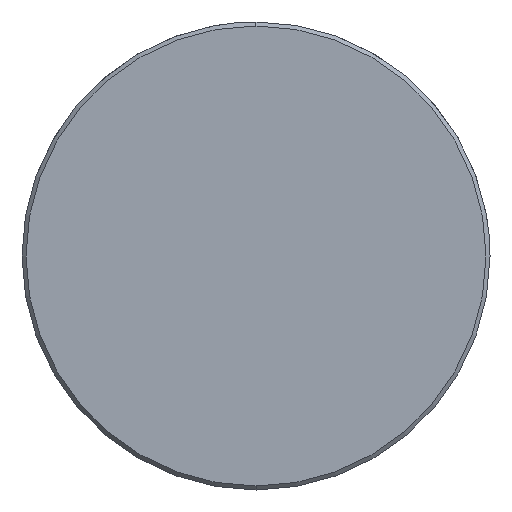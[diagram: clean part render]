
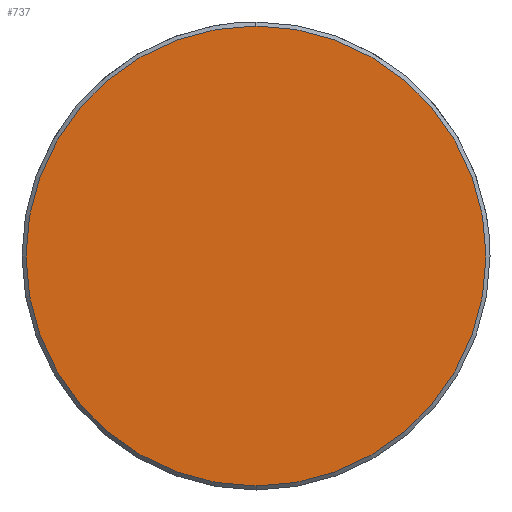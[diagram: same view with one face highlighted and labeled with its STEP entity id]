
A CAD part, left-side view. The second image highlights one B-rep face of the part: STEP entity #737.
In plain terms, the highlighted planar face has unit normal (-1, 0, 0).
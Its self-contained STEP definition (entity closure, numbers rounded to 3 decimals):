
#669=CARTESIAN_POINT('Vertex',(0.,0.,-17.2)) ;
#672=CARTESIAN_POINT('Axis2P3D Location',(0.,0.,0.)) ;
#676=CARTESIAN_POINT('Vertex',(0.,17.2,0.)) ;
#679=CARTESIAN_POINT('Axis2P3D Location',(0.,0.,0.)) ;
#683=CARTESIAN_POINT('Vertex',(0.,0.,17.2)) ;
#705=CARTESIAN_POINT('Axis2P3D Location',(0.,0.,0.)) ;
#709=CARTESIAN_POINT('Vertex',(0.,-17.2,0.)) ;
#712=CARTESIAN_POINT('Axis2P3D Location',(0.,0.,0.)) ;
#726=CARTESIAN_POINT('Axis2P3D Location',(0.,0.,0.)) ;
#673=DIRECTION('Axis2P3D Direction',(1.,0.,-0.)) ;
#680=DIRECTION('Axis2P3D Direction',(1.,0.,-0.)) ;
#706=DIRECTION('Axis2P3D Direction',(1.,0.,-0.)) ;
#713=DIRECTION('Axis2P3D Direction',(1.,0.,-0.)) ;
#727=DIRECTION('Axis2P3D Direction',(1.,0.,-0.)) ;
#728=DIRECTION('Axis2P3D XDirection',(-0.,0.,-1.)) ;
#674=AXIS2_PLACEMENT_3D('Circle Axis2P3D',#672,#673,$) ;
#681=AXIS2_PLACEMENT_3D('Circle Axis2P3D',#679,#680,$) ;
#707=AXIS2_PLACEMENT_3D('Circle Axis2P3D',#705,#706,$) ;
#714=AXIS2_PLACEMENT_3D('Circle Axis2P3D',#712,#713,$) ;
#729=AXIS2_PLACEMENT_3D('Plane Axis2P3D',#726,#727,#728) ;
#732=ORIENTED_EDGE('',*,*,#678,.F.) ;
#733=ORIENTED_EDGE('',*,*,#716,.F.) ;
#734=ORIENTED_EDGE('',*,*,#711,.F.) ;
#735=ORIENTED_EDGE('',*,*,#685,.F.) ;
#737=ADVANCED_FACE('549-32X240',(#736),#730,.F.) ;
#675=CIRCLE('generated circle',#674,17.2) ;
#682=CIRCLE('generated circle',#681,17.2) ;
#708=CIRCLE('generated circle',#707,17.2) ;
#715=CIRCLE('generated circle',#714,17.2) ;
#678=EDGE_CURVE('',#670,#677,#675,.T.) ;
#685=EDGE_CURVE('',#677,#684,#682,.T.) ;
#711=EDGE_CURVE('',#684,#710,#708,.T.) ;
#716=EDGE_CURVE('',#710,#670,#715,.T.) ;
#731=EDGE_LOOP('',(#732,#733,#734,#735)) ;
#736=FACE_OUTER_BOUND('',#731,.T.) ;
#730=PLANE('Plane',#729) ;
#670=VERTEX_POINT('',#669) ;
#677=VERTEX_POINT('',#676) ;
#684=VERTEX_POINT('',#683) ;
#710=VERTEX_POINT('',#709) ;
